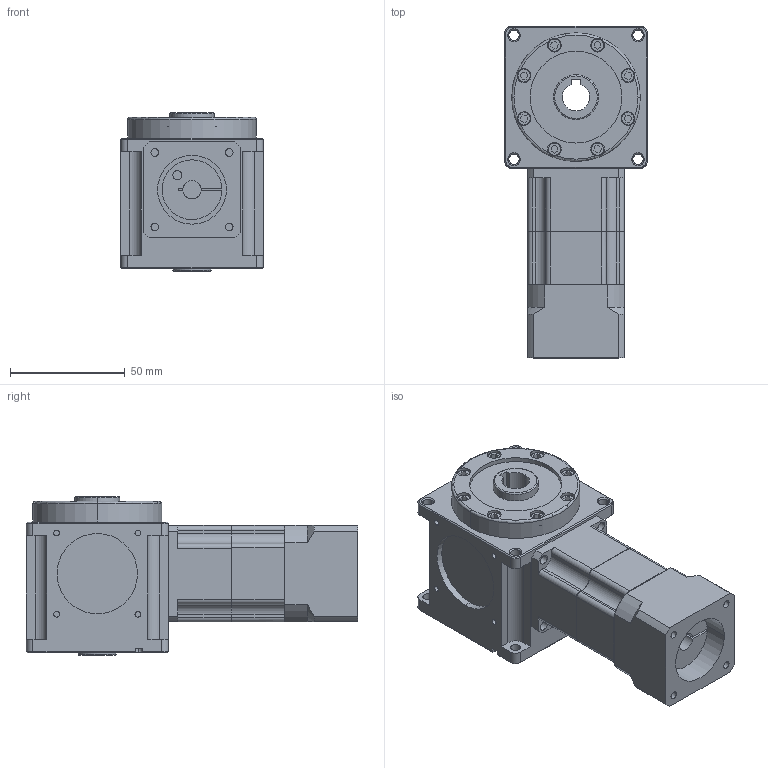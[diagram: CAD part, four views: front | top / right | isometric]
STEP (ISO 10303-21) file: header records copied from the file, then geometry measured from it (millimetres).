
FILE_DESCRIPTION (( 'STEP AP214' ), '1' );
FILE_NAME ('CCW062A-L2(24-100)-CR 8-30-46-M4.STEP', '2025-06-02T08:47:19', ( '微软用户' ), ( '微软中国' ), 'SwSTEP 2.0', 'SolidWorks 2024', '' );
FILE_SCHEMA (( 'AUTOMOTIVE_DESIGN' ));
Length unit declared in the file: millimetre
Products named in the file (3): 042-L2齿圈; CCW062A-L2(24-100)-CR 8-30-46-M4; CCW062A-002-CR箱体
Assembly tree (2 placements, depth 2):
  CCW062A-L2(24-100)-CR 8-30-46-M4
    CCW062A-002-CR箱体
    042-L2齿圈
Bounding box: 62 x 144.5 x 69 mm (x, y, z)
Volume: 324081.5 mm3; surface area: 51335.3 mm2
Topology: 2 solids, 2 shells, 495 faces, 1182 edges, 738 vertices
Faces by surface type: plane 236, cylinder 179, cone 72, torus 8
Entity records: 14538 total; most frequent: CARTESIAN_POINT 2620, DIRECTION 2604, ORIENTED_EDGE 2364, EDGE_CURVE 1182, AXIS2_PLACEMENT_3D 962, VERTEX_POINT 738, LINE 680, VECTOR 680
